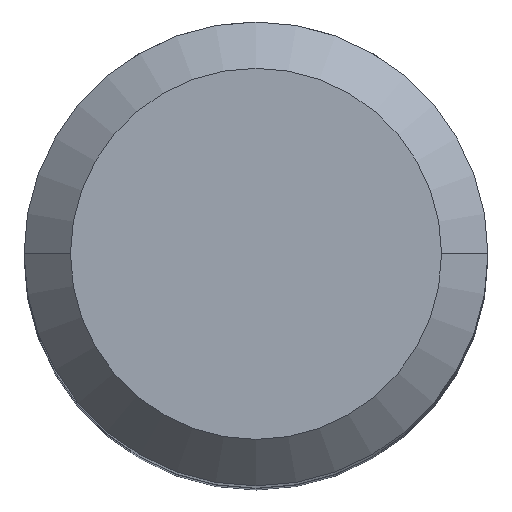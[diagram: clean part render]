
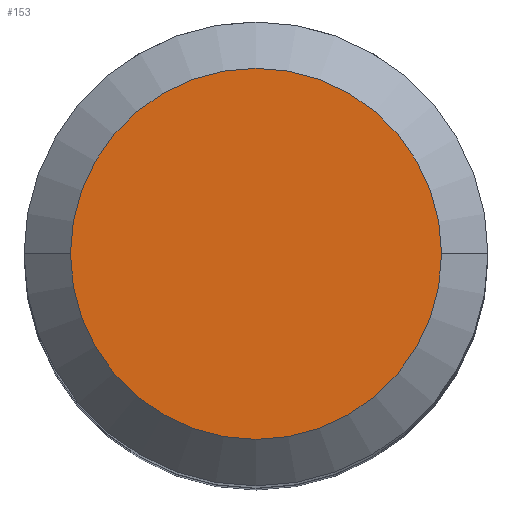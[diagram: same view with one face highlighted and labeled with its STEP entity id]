
A CAD part, top view. The second image highlights one B-rep face of the part: STEP entity #153.
In plain terms, the highlighted planar face has unit normal (0, 0, 1).
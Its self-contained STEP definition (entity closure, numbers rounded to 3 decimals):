
#31 = DIRECTION ( 'NONE',  ( 0., 0., -1. ) ) ;
#80 = CARTESIAN_POINT ( 'NONE',  ( 0., 8., 0. ) ) ;
#112 = EDGE_CURVE ( 'NONE', #116, #613, #140, .T. ) ;
#116 = VERTEX_POINT ( 'NONE', #336 ) ;
#124 = DIRECTION ( 'NONE',  ( 1., 0., 0. ) ) ;
#130 = AXIS2_PLACEMENT_3D ( 'NONE', #272, #31, #276 ) ;
#138 = DIRECTION ( 'NONE',  ( 0., 0., -1. ) ) ;
#140 = CIRCLE ( 'NONE', #130, 8. ) ;
#153 = ADVANCED_FACE ( 'NONE', ( #538 ), #177, .T. ) ;
#165 = EDGE_LOOP ( 'NONE', ( #174, #629 ) ) ;
#174 = ORIENTED_EDGE ( 'NONE', *, *, #233, .F. ) ;
#177 = PLANE ( 'NONE',  #284 ) ;
#221 = CARTESIAN_POINT ( 'NONE',  ( 0., 0., 0. ) ) ;
#233 = EDGE_CURVE ( 'NONE', #613, #116, #370, .T. ) ;
#272 = CARTESIAN_POINT ( 'NONE',  ( 0., 0., 0. ) ) ;
#276 = DIRECTION ( 'NONE',  ( -1., 0., 0. ) ) ;
#280 = DIRECTION ( 'NONE',  ( 0., 0., 1. ) ) ;
#284 = AXIS2_PLACEMENT_3D ( 'NONE', #80, #280, #124 ) ;
#336 = CARTESIAN_POINT ( 'NONE',  ( 8., 0., 0. ) ) ;
#340 = DIRECTION ( 'NONE',  ( -1., 0., 0. ) ) ;
#370 = CIRCLE ( 'NONE', #536, 8. ) ;
#536 = AXIS2_PLACEMENT_3D ( 'NONE', #221, #138, #340 ) ;
#538 = FACE_OUTER_BOUND ( 'NONE', #165, .T. ) ;
#610 = CARTESIAN_POINT ( 'NONE',  ( -8., 0., 0. ) ) ;
#613 = VERTEX_POINT ( 'NONE', #610 ) ;
#629 = ORIENTED_EDGE ( 'NONE', *, *, #112, .F. ) ;
